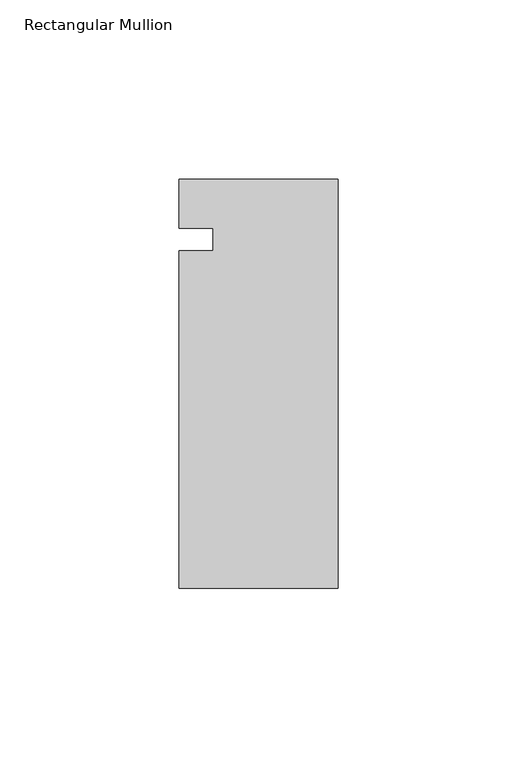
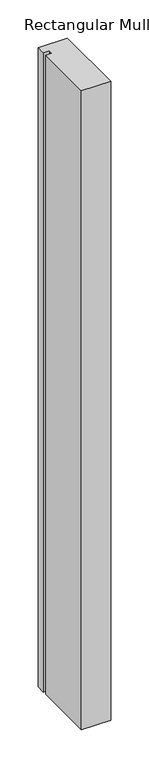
"""IFC4 building model written with IfcOpenShell, lengths in millimetres: member geometry, Rectangular Mullion : Kawneer-TRIFAB_VG_450_BACK_SB_Sill."""

from ifc_helpers import new_model, si_unit, frame, origin, place, context, project, spatial, polyline, outline, extrude, source, transform, mapped, element, save


def rectangular_mullion_55faee5e(model_context):
    return source(origin(), model_context, "Body", "SweptSolid", [
        extrude(outline(polyline([(-44.45, 16.8840492), (0.0, 16.8840492), (0.0, -97.4159508), (-44.45, -97.4159508), (-44.45, -3.175), (-34.925, -3.175), (-34.925, 3.175), (-44.45, 3.175), (-44.45, 16.8840492)])), frame((0.0, 0.0, -1026.3344133), z_axis=(0.0, 0.0, 1.0), x_axis=(1.0, 0.0, 0.0)), (0.0, 0.0, 1.0), 1026.3344133),
    ])


if __name__ == "__main__":
    model = new_model("IFC4")
    model_context = context("Model", 3, world=origin())
    ifc_project = project(units=[si_unit("LENGTHUNIT", "METRE", prefix="MILLI")], contexts=[model_context])
    site = spatial("IfcSite", under=ifc_project)
    building = spatial("IfcBuilding", under=site)
    placement = place(None, origin())
    rectangular_mullion_shape = rectangular_mullion_55faee5e(model_context)
    element("IfcMember", 1, ObjectType="Rectangular Mullion : Kawneer-TRIFAB_VG_450_BACK_SB_Sill", at=placement, inside=building, context=model_context, shape_type="MappedRepresentation", body=[
        mapped(rectangular_mullion_shape, transform((0.0, 0.0, 0.0), x_axis=(1.0, 0.0, 0.0), y_axis=(0.0, 1.0, 0.0), z_axis=(0.0, 0.0, 1.0))),
    ])
    save(model, "model.ifc")
